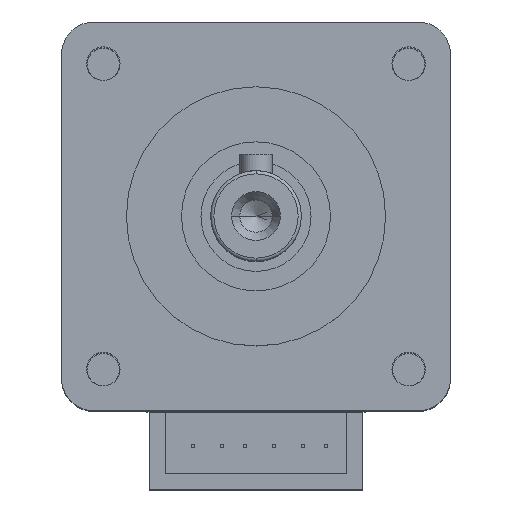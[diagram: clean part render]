
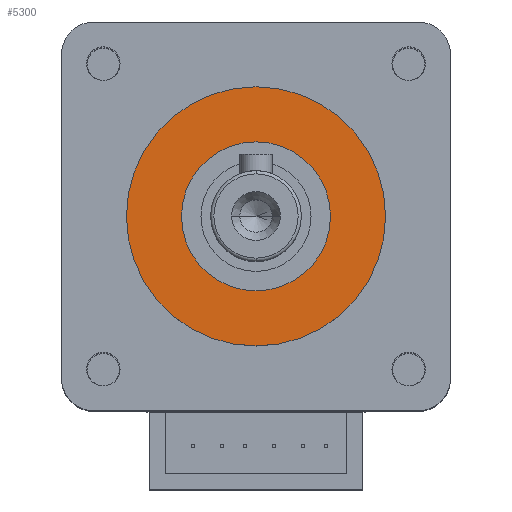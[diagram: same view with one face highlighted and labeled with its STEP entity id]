
A CAD part, top view. The second image highlights one B-rep face of the part: STEP entity #5300.
In plain terms, the highlighted planar face has unit normal (0, 0, 1).
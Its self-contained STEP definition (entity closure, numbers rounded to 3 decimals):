
#121 = CIRCLE ( 'NONE', #1645, 20. ) ;
#188 = AXIS2_PLACEMENT_3D ( 'NONE', #560, #3068, #5070 ) ;
#560 = CARTESIAN_POINT ( 'NONE',  ( 0., 0., 2.5 ) ) ;
#1107 = AXIS2_PLACEMENT_3D ( 'NONE', #4746, #4257, #1164 ) ;
#1164 = DIRECTION ( 'NONE',  ( -1., 0., 0. ) ) ;
#1201 = DIRECTION ( 'NONE',  ( -1., 0., 0. ) ) ;
#1205 = EDGE_LOOP ( 'NONE', ( #1606, #2087 ) ) ;
#1394 = CARTESIAN_POINT ( 'NONE',  ( -20., 0., 2.5 ) ) ;
#1461 = PLANE ( 'NONE',  #188 ) ;
#1606 = ORIENTED_EDGE ( 'NONE', *, *, #5150, .F. ) ;
#1645 = AXIS2_PLACEMENT_3D ( 'NONE', #1709, #6322, #1201 ) ;
#1709 = CARTESIAN_POINT ( 'NONE',  ( 0., 0., 2.5 ) ) ;
#1779 = CARTESIAN_POINT ( 'NONE',  ( 11.5, 0., 2.5 ) ) ;
#1867 = DIRECTION ( 'NONE',  ( 0., 0., 1. ) ) ;
#2087 = ORIENTED_EDGE ( 'NONE', *, *, #2089, .F. ) ;
#2089 = EDGE_CURVE ( 'NONE', #3892, #5631, #6038, .T. ) ;
#2115 = ORIENTED_EDGE ( 'NONE', *, *, #3778, .F. ) ;
#2211 = FACE_OUTER_BOUND ( 'NONE', #6359, .T. ) ;
#2380 = CIRCLE ( 'NONE', #3372, 11.5 ) ;
#2820 = AXIS2_PLACEMENT_3D ( 'NONE', #4887, #2839, #4912 ) ;
#2839 = DIRECTION ( 'NONE',  ( 0., 0., -1. ) ) ;
#3068 = DIRECTION ( 'NONE',  ( 0., 0., -1. ) ) ;
#3372 = AXIS2_PLACEMENT_3D ( 'NONE', #3505, #1867, #5460 ) ;
#3400 = CARTESIAN_POINT ( 'NONE',  ( -11.5, 0., 2.5 ) ) ;
#3505 = CARTESIAN_POINT ( 'NONE',  ( 0., 0., 2.5 ) ) ;
#3778 = EDGE_CURVE ( 'NONE', #4098, #5206, #121, .T. ) ;
#3892 = VERTEX_POINT ( 'NONE', #1779 ) ;
#3982 = EDGE_CURVE ( 'NONE', #5206, #4098, #5402, .T. ) ;
#4098 = VERTEX_POINT ( 'NONE', #4999 ) ;
#4257 = DIRECTION ( 'NONE',  ( 0., 0., 1. ) ) ;
#4714 = FACE_BOUND ( 'NONE', #1205, .T. ) ;
#4746 = CARTESIAN_POINT ( 'NONE',  ( 0., 0., 2.5 ) ) ;
#4854 = ORIENTED_EDGE ( 'NONE', *, *, #3982, .F. ) ;
#4887 = CARTESIAN_POINT ( 'NONE',  ( 0., 0., 2.5 ) ) ;
#4912 = DIRECTION ( 'NONE',  ( -1., 0., 0. ) ) ;
#4999 = CARTESIAN_POINT ( 'NONE',  ( 20., 0., 2.5 ) ) ;
#5070 = DIRECTION ( 'NONE',  ( -1., 0., 0. ) ) ;
#5150 = EDGE_CURVE ( 'NONE', #5631, #3892, #2380, .T. ) ;
#5206 = VERTEX_POINT ( 'NONE', #1394 ) ;
#5300 = ADVANCED_FACE ( 'NONE', ( #2211, #4714 ), #1461, .F. ) ;
#5402 = CIRCLE ( 'NONE', #2820, 20. ) ;
#5460 = DIRECTION ( 'NONE',  ( -1., 0., 0. ) ) ;
#5631 = VERTEX_POINT ( 'NONE', #3400 ) ;
#6038 = CIRCLE ( 'NONE', #1107, 11.5 ) ;
#6322 = DIRECTION ( 'NONE',  ( 0., 0., -1. ) ) ;
#6359 = EDGE_LOOP ( 'NONE', ( #4854, #2115 ) ) ;
